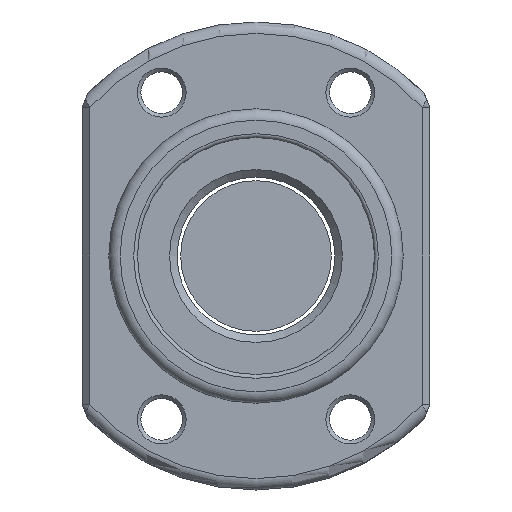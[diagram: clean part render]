
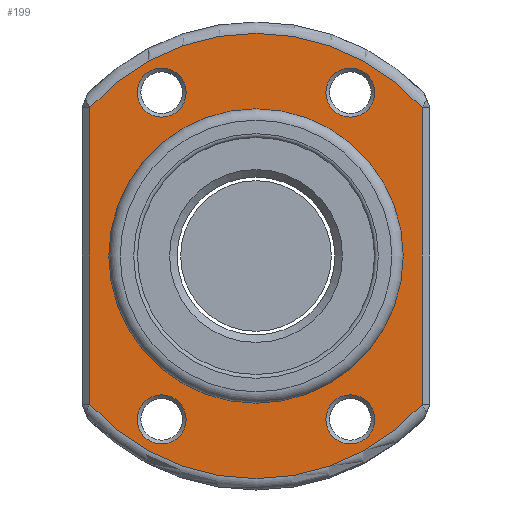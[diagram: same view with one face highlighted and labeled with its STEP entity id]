
A CAD part, front view. The second image highlights one B-rep face of the part: STEP entity #199.
In plain terms, the highlighted planar face has unit normal (0, -1, 0).
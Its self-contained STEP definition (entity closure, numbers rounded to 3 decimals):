
#91=LINE('',#1188,#111);
#92=LINE('',#1192,#112);
#111=VECTOR('',#989,1.);
#112=VECTOR('',#992,1.);
#153=PLANE('',#874);
#199=ADVANCED_FACE('',(#272,#273,#274,#275,#276,#277),#153,.T.);
#272=FACE_BOUND('',#342,.T.);
#273=FACE_BOUND('',#343,.T.);
#274=FACE_BOUND('',#344,.T.);
#275=FACE_BOUND('',#345,.T.);
#276=FACE_BOUND('',#346,.T.);
#277=FACE_BOUND('',#347,.T.);
#342=EDGE_LOOP('',(#439));
#343=EDGE_LOOP('',(#440));
#344=EDGE_LOOP('',(#441));
#345=EDGE_LOOP('',(#442));
#346=EDGE_LOOP('',(#443));
#347=EDGE_LOOP('',(#444,#445,#446,#447));
#439=ORIENTED_EDGE('',*,*,#719,.T.);
#440=ORIENTED_EDGE('',*,*,#720,.T.);
#441=ORIENTED_EDGE('',*,*,#721,.T.);
#442=ORIENTED_EDGE('',*,*,#722,.T.);
#443=ORIENTED_EDGE('',*,*,#723,.T.);
#444=ORIENTED_EDGE('',*,*,#724,.T.);
#445=ORIENTED_EDGE('',*,*,#725,.T.);
#446=ORIENTED_EDGE('',*,*,#726,.T.);
#447=ORIENTED_EDGE('',*,*,#727,.T.);
#641=VERTEX_POINT('',#1176);
#642=VERTEX_POINT('',#1178);
#643=VERTEX_POINT('',#1180);
#644=VERTEX_POINT('',#1182);
#645=VERTEX_POINT('',#1184);
#646=VERTEX_POINT('',#1186);
#647=VERTEX_POINT('',#1187);
#648=VERTEX_POINT('',#1189);
#649=VERTEX_POINT('',#1191);
#719=EDGE_CURVE('',#641,#641,#819,.T.);
#720=EDGE_CURVE('',#642,#642,#820,.T.);
#721=EDGE_CURVE('',#643,#643,#821,.T.);
#722=EDGE_CURVE('',#644,#644,#822,.T.);
#723=EDGE_CURVE('',#645,#645,#823,.T.);
#724=EDGE_CURVE('',#646,#647,#824,.T.);
#725=EDGE_CURVE('',#647,#648,#91,.T.);
#726=EDGE_CURVE('',#648,#649,#825,.T.);
#727=EDGE_CURVE('',#649,#646,#92,.T.);
#819=CIRCLE('',#867,3.25);
#820=CIRCLE('',#868,3.25);
#821=CIRCLE('',#869,3.25);
#822=CIRCLE('',#870,3.25);
#823=CIRCLE('',#871,19.5);
#824=CIRCLE('',#872,29.5);
#825=CIRCLE('',#873,29.5);
#867=AXIS2_PLACEMENT_3D('',#1175,#977,#978);
#868=AXIS2_PLACEMENT_3D('',#1177,#979,#980);
#869=AXIS2_PLACEMENT_3D('',#1179,#981,#982);
#870=AXIS2_PLACEMENT_3D('',#1181,#983,#984);
#871=AXIS2_PLACEMENT_3D('',#1183,#985,#986);
#872=AXIS2_PLACEMENT_3D('',#1185,#987,#988);
#873=AXIS2_PLACEMENT_3D('',#1190,#990,#991);
#874=AXIS2_PLACEMENT_3D('',#1193,#993,#994);
#977=DIRECTION('',(0.,1.,0.));
#978=DIRECTION('',(0.,0.,-1.));
#979=DIRECTION('',(0.,1.,0.));
#980=DIRECTION('',(0.,0.,-1.));
#981=DIRECTION('',(0.,1.,0.));
#982=DIRECTION('',(0.,0.,-1.));
#983=DIRECTION('',(0.,1.,0.));
#984=DIRECTION('',(0.,0.,-1.));
#985=DIRECTION('',(0.,1.,0.));
#986=DIRECTION('',(0.,0.,-1.));
#987=DIRECTION('',(0.,-1.,0.));
#988=DIRECTION('',(0.,0.,-1.));
#989=DIRECTION('',(0.,0.,-1.));
#990=DIRECTION('',(0.,-1.,0.));
#991=DIRECTION('',(0.,0.,-1.));
#992=DIRECTION('',(0.,0.,1.));
#993=DIRECTION('',(0.,-1.,0.));
#994=DIRECTION('',(0.,0.,-1.));
#1175=CARTESIAN_POINT('',(12.5,0.,-21.651));
#1176=CARTESIAN_POINT('',(12.5,0.,-24.901));
#1177=CARTESIAN_POINT('',(-12.5,0.,21.651));
#1178=CARTESIAN_POINT('',(-12.5,0.,18.401));
#1179=CARTESIAN_POINT('',(-12.5,0.,-21.651));
#1180=CARTESIAN_POINT('',(-12.5,0.,-24.901));
#1181=CARTESIAN_POINT('',(12.5,0.,21.651));
#1182=CARTESIAN_POINT('',(12.5,0.,18.401));
#1183=CARTESIAN_POINT('',(0.,0.,0.));
#1184=CARTESIAN_POINT('',(0.,0.,-19.5));
#1185=CARTESIAN_POINT('',(0.,0.,0.));
#1186=CARTESIAN_POINT('',(22.,0.,19.653));
#1187=CARTESIAN_POINT('',(-22.,0.,19.653));
#1188=CARTESIAN_POINT('',(-22.,0.,0.));
#1189=CARTESIAN_POINT('',(-22.,0.,-19.653));
#1190=CARTESIAN_POINT('',(0.,0.,0.));
#1191=CARTESIAN_POINT('',(22.,0.,-19.653));
#1192=CARTESIAN_POINT('',(22.,0.,0.));
#1193=CARTESIAN_POINT('',(0.,0.,0.));
